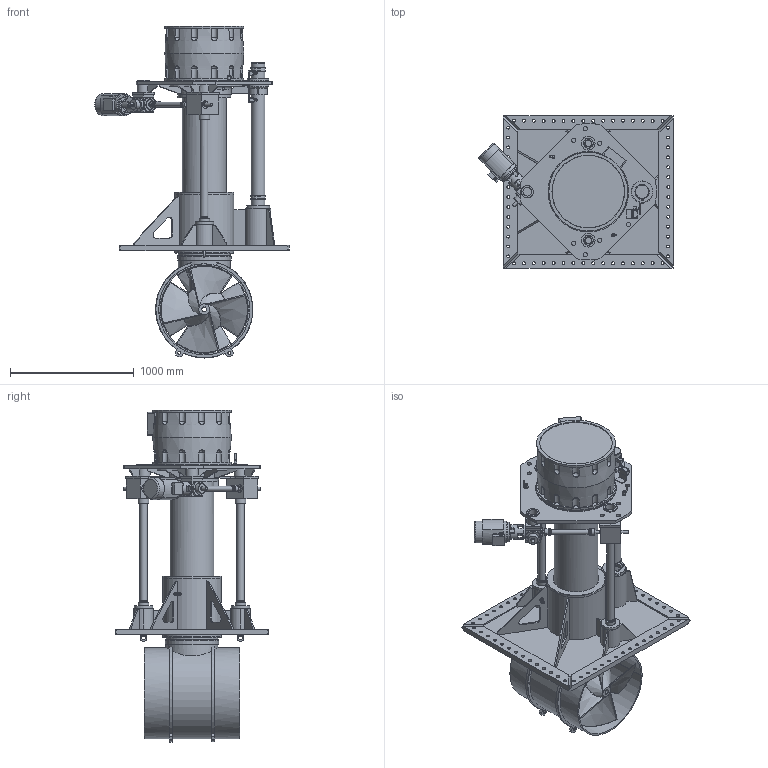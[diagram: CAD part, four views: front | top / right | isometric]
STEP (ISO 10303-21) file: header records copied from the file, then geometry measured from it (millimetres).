
FILE_DESCRIPTION(/* description */ (''),/* implementation_level */ '2;1');
FILE_NAME(/* name */ 'Q:\THRUSTERS\THRUSTER SALES & SUPPORT DOCS\THRUSTER Sales\E-V\E-0700-V\E-0700-V-RETRACTED.stp',/* time_stamp */ '2021-02-04T09:18:01+00:00',/* author */ ('Barney.Webborn'),/* organization */ (''),/* preprocessor_version */ 'ST-DEVELOPER v17.2',/* originating_system */ 'Autodesk Inventor 2019',/* authorisation */ '');
FILE_SCHEMA (('AUTOMOTIVE_DESIGN { 1 0 10303 214 3 1 1 }'));
Products named in the file (1): E-0700-V_Shrinkwrap_1
Bounding box: 1570.25 x 1232 x 2680.6 mm (x, y, z)
Volume: 388280680.7 mm3; surface area: 21504148.2 mm2
Topology: 10 solids, 10 shells, 2430 faces, 6654 edges, 4340 vertices
Faces by surface type: plane 1092, cylinder 724, torus 334, cone 201, bspline 48, sphere 31
Full cylindrical faces by diameter (mm): 3 x6, 7.2 x2, 8 x2, 10 x2, 12 x8, 14.287 x1, 14.3 x1, 17 x2, 17.5 x2, 18 x7, 18.4 x1, 20 x2, 21.5 x1, 24 x67, 24.75 x1, 25 x14, 26.8 x1, 26.86 x1, 26.87 x1, 27 x1, 28 x1, 30 x4, 31.25 x4, 35 x9, 40 x2, 43.2 x4, 48 x1, 51 x2, 54 x5, 60 x8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
Entity records: 87534 total; most frequent: CARTESIAN_POINT 22776, ORIENTED_EDGE 13258, DIRECTION 12810, EDGE_CURVE 6629, AXIS2_PLACEMENT_3D 4870, VERTEX_POINT 4340, LINE 3070, VECTOR 3070
